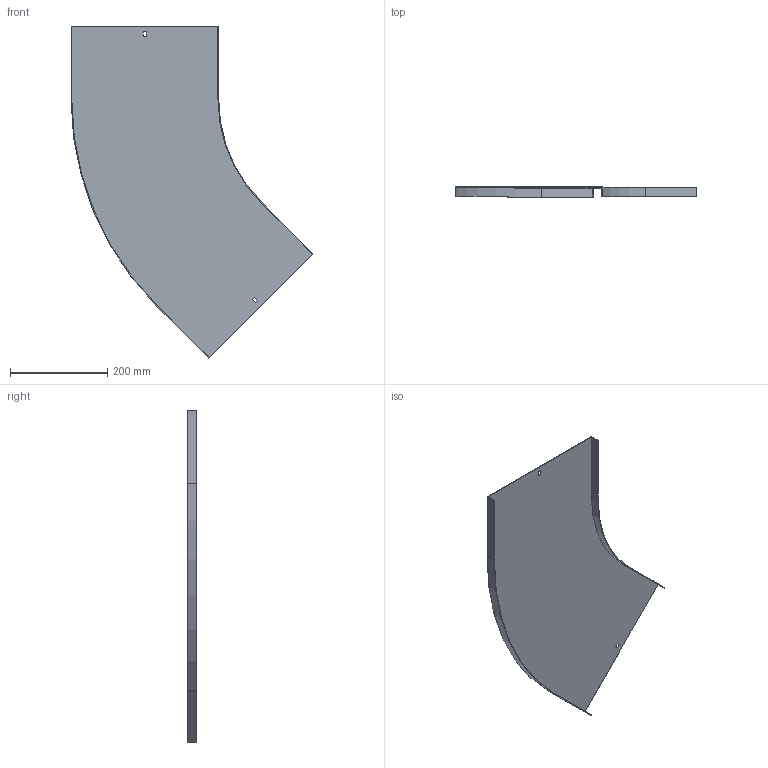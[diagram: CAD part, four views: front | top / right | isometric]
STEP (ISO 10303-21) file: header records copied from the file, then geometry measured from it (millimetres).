
FILE_DESCRIPTION (( 'STEP AP214' ), '1' );
FILE_NAME ('A2_11N3R300.step', '2025-02-21T10:50:30', ( '' ), ( '' ), 'SwSTEP 2.0', 'SolidWorks 2023', '' );
FILE_SCHEMA (( 'AUTOMOTIVE_DESIGN' ));
Length unit declared in the file: millimetre
Products named in the file (1): A2_11N3R300
Bounding box: 496.49 x 20 x 681.39 mm (x, y, z)
Volume: 333073.4 mm3; surface area: 447171.1 mm2
Topology: 1 solids, 1 shells, 26 faces, 72 edges, 48 vertices
Faces by surface type: plane 22, cylinder 4
Entity records: 855 total; most frequent: CARTESIAN_POINT 147, ORIENTED_EDGE 144, DIRECTION 134, EDGE_CURVE 72, LINE 64, VECTOR 64, VERTEX_POINT 48, AXIS2_PLACEMENT_3D 35
